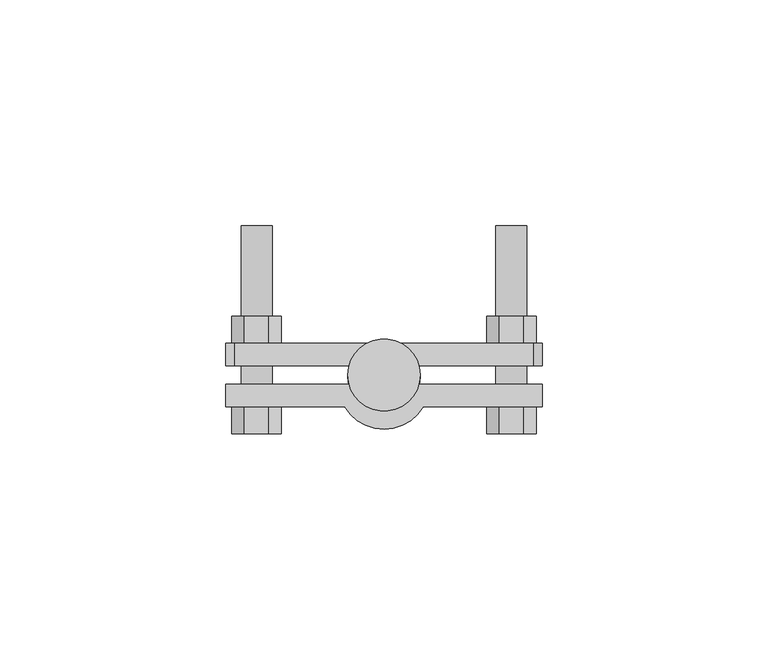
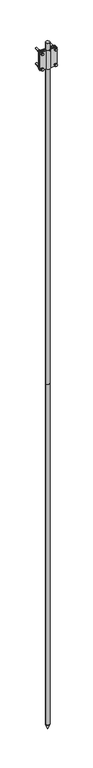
"""IFC4 building model written with IfcOpenShell, lengths in millimetres: proxy geometry, КНС_КомплектВертикальногоЗаземлителя_DKC : NE1103_Горячеоцинкованная сталь_3м."""

from ifc_helpers import new_model, si_unit, point, frame, frame_2d, origin, origin_2d, place, context, project, spatial, polyline, circle_curve, trimmed, segment, composite_curve, outline, extrude, source, transform, mapped, element, save
from ifc_brep_helpers import plane_surface, revolved_surface, advanced_brep


def security_devices_2f55b1ed(model_context):
    return source(origin(), model_context, "Body", "SolidModel", [
        extrude(outline(composite_curve([segment(trimmed(circle_curve(origin_2d(), 6.0), [point((-6.0, 0.0))], [point((6.0, 0.0))], False, "CARTESIAN"), True, "CONTINUOUS"), segment(trimmed(circle_curve(origin_2d(), 6.0), [point((6.0, 0.0))], [point((-6.0, 0.0))], False, "CARTESIAN"), True, "CONTINUOUS")], self_intersect=False)), frame((0.0, 0.0, 1490.0), z_axis=(0.0, 0.0, 1.0), x_axis=(1.0, 0.0, 0.0)), (0.0, 0.0, 1.0), 30.0),
        extrude(outline(composite_curve([segment(trimmed(circle_curve(origin_2d(), 8.0), [point((-8.0, 0.0))], [point((8.0, 0.0))], False, "CARTESIAN"), True, "CONTINUOUS"), segment(trimmed(circle_curve(origin_2d(), 8.0), [point((8.0, 0.0))], [point((-8.0, 0.0))], False, "CARTESIAN"), True, "CONTINUOUS")], self_intersect=False)), frame((0.0, 0.0, 1520.0), z_axis=(0.0, 0.0, 1.0), x_axis=(1.0, 0.0, 0.0)), (0.0, 0.0, 1.0), 1500.0),
        advanced_brep(
        [(0.0, 0.0, 20.0), (8.0, 0.0, 20.0), (-8.0, 0.0, 20.0), (0.0, 0.0, 0.0)],
        [
            (0, 1),
            (1, 2, circle_curve(frame((0.0, 0.0, 20.0), z_axis=(0.0, 0.0, 1.0), x_axis=(1.0, 0.0, 0.0)), 8.0)),
            (2, 0),
            (2, 1, circle_curve(frame((0.0, 0.0, 20.0), z_axis=(0.0, 0.0, 1.0), x_axis=(1.0, 0.0, 0.0)), 8.0)),
            (1, 3),
            (3, 2),
        ],
        [
            plane_surface(frame((0.0, 0.0, 20.0), z_axis=(0.0, 0.0, 1.0), x_axis=(1.0, 0.0, 0.0))),
            revolved_surface(polyline([(0.0, 0.0, 0.0), (8.0, 0.0, 20.0)]), (0.0, 0.0, 2234.3150031), (0.0, 0.0, 1.0)),
        ],
        [
            (0, [[1, 2, 3]]),
            (0, [[-3, 4, -1]]),
            (1, [[-2, 5, 6]]),
            (1, [[-4, -6, -5]]),
        ],
    ),
        extrude(outline(composite_curve([segment(trimmed(circle_curve(origin_2d(), 8.0), [point((-8.0, 0.0))], [point((8.0, 0.0))], False, "CARTESIAN"), True, "CONTINUOUS"), segment(trimmed(circle_curve(origin_2d(), 8.0), [point((8.0, 0.0))], [point((-8.0, 0.0))], False, "CARTESIAN"), True, "CONTINUOUS")], self_intersect=False)), frame((0.0, 0.0, 20.0), z_axis=(0.0, 0.0, 1.0), x_axis=(1.0, 0.0, 0.0)), (0.0, 0.0, 1.0), 1500.0),
        extrude(outline(composite_curve([segment(polyline([(-35.0, -7.0), (-35.0, -2.0), (-5.0, -2.0)]), True, "CONTINUOUS"), segment(trimmed(circle_curve(frame_2d((0.0, -2.0)), 5.0), [point((-5.0, -2.0))], [point((5.0, -2.0))], True, "CARTESIAN"), True, "CONTINUOUS"), segment(polyline([(5.0, -2.0), (35.0, -2.0), (35.0, -7.0), (8.660254, -7.0)]), True, "CONTINUOUS"), segment(trimmed(circle_curve(frame_2d((0.0, -2.0)), 10.0), [point((8.660254, -7.0))], [point((-8.660254, -7.0))], False, "CARTESIAN"), True, "CONTINUOUS"), segment(polyline([(-8.660254, -7.0), (-35.0, -7.0)]), True, "CONTINUOUS")], self_intersect=False)), frame((0.0, 0.0, 2910.0), z_axis=(0.0, 0.0, 1.0), x_axis=(1.0, 0.0, 0.0)), (0.0, 0.0, 1.0), 80.0),
        extrude(outline(composite_curve([segment(trimmed(circle_curve(frame_2d((2983.28125, -28.2121057)), 3.4209609), [point((2983.28125, -31.6330666))], [point((2983.28125, -24.7911448))], False, "CARTESIAN"), True, "CONTINUOUS"), segment(trimmed(circle_curve(frame_2d((2983.28125, -28.2121057)), 3.4209609), [point((2983.28125, -24.7911448))], [point((2983.28125, -31.6330666))], False, "CARTESIAN"), True, "CONTINUOUS")], self_intersect=False)), frame((0.0, -7.0, 0.0), z_axis=(0.0, 1.0, 0.0), x_axis=(0.0, 0.0, 1.0)), (0.0, 0.0, 1.0), 40.0),
        extrude(outline(composite_curve([segment(trimmed(circle_curve(frame_2d((2983.28125, 28.2121057)), 3.4209609), [point((2983.28125, 24.7911448))], [point((2983.28125, 31.6330666))], False, "CARTESIAN"), True, "CONTINUOUS"), segment(trimmed(circle_curve(frame_2d((2983.28125, 28.2121057)), 3.4209609), [point((2983.28125, 31.6330666))], [point((2983.28125, 24.7911448))], False, "CARTESIAN"), True, "CONTINUOUS")], self_intersect=False)), frame((0.0, -7.0, 0.0), z_axis=(0.0, 1.0, 0.0), x_axis=(0.0, 0.0, 1.0)), (0.0, 0.0, 1.0), 40.0),
        extrude(outline(composite_curve([segment(trimmed(circle_curve(frame_2d((2916.71875, -28.2121057)), 3.4209609), [point((2916.71875, -31.6330666))], [point((2916.71875, -24.7911448))], False, "CARTESIAN"), True, "CONTINUOUS"), segment(trimmed(circle_curve(frame_2d((2916.71875, -28.2121057)), 3.4209609), [point((2916.71875, -24.7911448))], [point((2916.71875, -31.6330666))], False, "CARTESIAN"), True, "CONTINUOUS")], self_intersect=False)), frame((0.0, -7.0, 0.0), z_axis=(0.0, 1.0, 0.0), x_axis=(0.0, 0.0, 1.0)), (0.0, 0.0, 1.0), 40.0),
        extrude(outline(composite_curve([segment(trimmed(circle_curve(frame_2d((2916.71875, 28.2121057)), 3.4209609), [point((2916.71875, 24.7911448))], [point((2916.71875, 31.6330666))], False, "CARTESIAN"), True, "CONTINUOUS"), segment(trimmed(circle_curve(frame_2d((2916.71875, 28.2121057)), 3.4209609), [point((2916.71875, 31.6330666))], [point((2916.71875, 24.7911448))], False, "CARTESIAN"), True, "CONTINUOUS")], self_intersect=False)), frame((0.0, -7.0, 0.0), z_axis=(0.0, 1.0, 0.0), x_axis=(0.0, 0.0, 1.0)), (0.0, 0.0, 1.0), 40.0),
        extrude(outline(polyline([(2983.3883083, -33.6996224), (2978.6359794, -30.955864), (2978.6359794, -25.4683473), (2983.3883083, -22.724589), (2988.1406371, -25.4683473), (2988.1406371, -30.955864), (2983.3883083, -33.6996224)])), frame((0.0, 7.0, 0.0), z_axis=(0.0, 1.0, 0.0), x_axis=(0.0, 0.0, 1.0)), (0.0, 0.0, 1.0), 6.0),
        extrude(outline(polyline([(2983.3883083, 33.6996224), (2988.1406371, 30.955864), (2988.1406371, 25.4683473), (2983.3883083, 22.724589), (2978.6359794, 25.4683473), (2978.6359794, 30.955864), (2983.3883083, 33.6996224)])), frame((0.0, 7.0, 0.0), z_axis=(0.0, 1.0, 0.0), x_axis=(0.0, 0.0, 1.0)), (0.0, 0.0, 1.0), 6.0),
        extrude(outline(polyline([(2916.6116917, -33.6996224), (2911.8593629, -30.955864), (2911.8593629, -25.4683473), (2916.6116917, -22.724589), (2921.3640206, -25.4683473), (2921.3640206, -30.955864), (2916.6116917, -33.6996224)])), frame((0.0, 7.0, 0.0), z_axis=(0.0, 1.0, 0.0), x_axis=(0.0, 0.0, 1.0)), (0.0, 0.0, 1.0), 6.0),
        extrude(outline(polyline([(2916.6116917, 33.6996224), (2921.3640206, 30.955864), (2921.3640206, 25.4683473), (2916.6116917, 22.724589), (2911.8593629, 25.4683473), (2911.8593629, 30.955864), (2916.6116917, 33.6996224)])), frame((0.0, 7.0, 0.0), z_axis=(0.0, 1.0, 0.0), x_axis=(0.0, 0.0, 1.0)), (0.0, 0.0, 1.0), 6.0),
        extrude(outline(polyline([(2983.3883083, -33.6996224), (2978.6359794, -30.955864), (2978.6359794, -25.4683473), (2983.3883083, -22.724589), (2988.1406371, -25.4683473), (2988.1406371, -30.955864), (2983.3883083, -33.6996224)])), frame((0.0, -13.0, 0.0), z_axis=(0.0, 1.0, 0.0), x_axis=(0.0, 0.0, 1.0)), (0.0, 0.0, 1.0), 6.0),
        extrude(outline(polyline([(2983.3883083, 33.6996224), (2988.1406371, 30.955864), (2988.1406371, 25.4683473), (2983.3883083, 22.724589), (2978.6359794, 25.4683473), (2978.6359794, 30.955864), (2983.3883083, 33.6996224)])), frame((0.0, -13.0, 0.0), z_axis=(0.0, 1.0, 0.0), x_axis=(0.0, 0.0, 1.0)), (0.0, 0.0, 1.0), 6.0),
        extrude(outline(polyline([(2916.6116917, -33.6996224), (2911.8593629, -30.955864), (2911.8593629, -25.4683473), (2916.6116917, -22.724589), (2921.3640206, -25.4683473), (2921.3640206, -30.955864), (2916.6116917, -33.6996224)])), frame((0.0, -13.0, 0.0), z_axis=(0.0, 1.0, 0.0), x_axis=(0.0, 0.0, 1.0)), (0.0, 0.0, 1.0), 6.0),
        extrude(outline(polyline([(2916.6116917, 33.6996224), (2921.3640206, 30.955864), (2921.3640206, 25.4683473), (2916.6116917, 22.724589), (2911.8593629, 25.4683473), (2911.8593629, 30.955864), (2916.6116917, 33.6996224)])), frame((0.0, -13.0, 0.0), z_axis=(0.0, 1.0, 0.0), x_axis=(0.0, 0.0, 1.0)), (0.0, 0.0, 1.0), 6.0),
        extrude(outline(composite_curve([segment(polyline([(2990.0, 33.0), (2990.0, -33.0)]), True, "CONTINUOUS"), segment(trimmed(circle_curve(frame_2d((2988.0, -33.0)), 2.0), [point((2990.0, -33.0))], [point((2988.0, -35.0))], False, "CARTESIAN"), True, "CONTINUOUS"), segment(polyline([(2988.0, -35.0), (2912.0, -35.0)]), True, "CONTINUOUS"), segment(trimmed(circle_curve(frame_2d((2912.0, -33.0)), 2.0), [point((2912.0, -35.0))], [point((2910.0, -33.0))], False, "CARTESIAN"), True, "CONTINUOUS"), segment(polyline([(2910.0, -33.0), (2910.0, 33.0)]), True, "CONTINUOUS"), segment(trimmed(circle_curve(frame_2d((2912.0, 33.0)), 2.0), [point((2910.0, 33.0))], [point((2912.0, 35.0))], False, "CARTESIAN"), True, "CONTINUOUS"), segment(polyline([(2912.0, 35.0), (2988.0, 35.0)]), True, "CONTINUOUS"), segment(trimmed(circle_curve(frame_2d((2988.0, 33.0)), 2.0), [point((2988.0, 35.0))], [point((2990.0, 33.0))], False, "CARTESIAN"), True, "CONTINUOUS")], self_intersect=False)), frame((0.0, 2.0, 0.0), z_axis=(0.0, 1.0, 0.0), x_axis=(0.0, 0.0, 1.0)), (0.0, 0.0, 1.0), 5.0),
    ])


if __name__ == "__main__":
    model = new_model("IFC4")
    model_context = context("Model", 3, world=origin())
    ifc_project = project(units=[si_unit("LENGTHUNIT", "METRE", prefix="MILLI")], contexts=[model_context])
    site = spatial("IfcSite", under=ifc_project)
    building = spatial("IfcBuilding", under=site)
    placement = place(None, origin())
    security_devices_shape = security_devices_2f55b1ed(model_context)
    element("IfcBuildingElementProxy", 1, Name="КНС_КомплектВертикальногоЗаземлителя_DKC : NE1103_Горячеоцинкованная сталь_3м", ObjectType="КНС_КомплектВертикальногоЗаземлителя_DKC : NE1103_Горячеоцинкованная сталь_3м", at=placement, inside=building, context=model_context, shape_type="MappedRepresentation", body=[
        mapped(security_devices_shape, transform((0.0, 0.0, 0.0), x_axis=(1.0, 0.0, 0.0), y_axis=(0.0, 1.0, 0.0), z_axis=(0.0, 0.0, 1.0))),
    ])
    save(model, "model.ifc")
